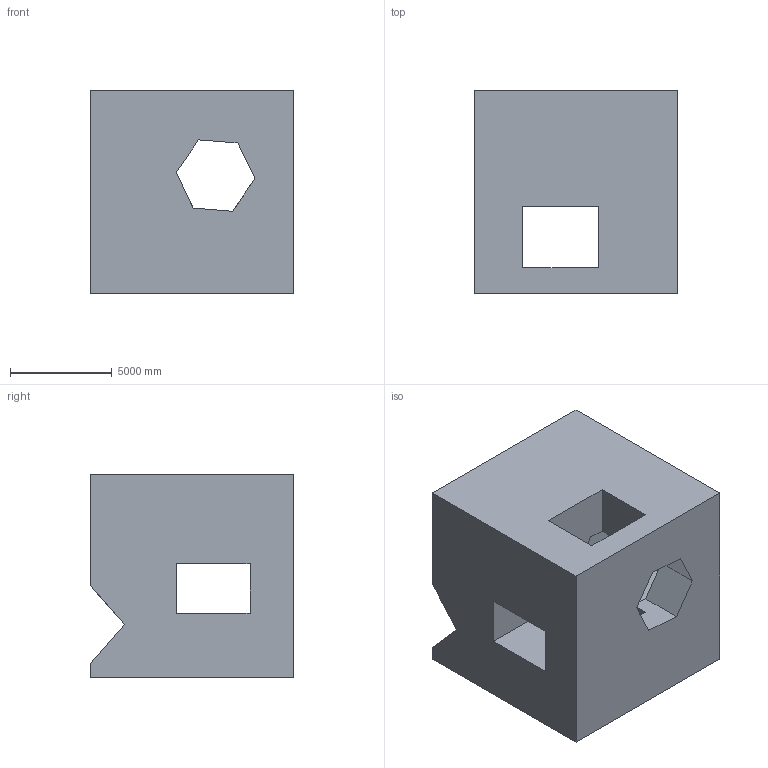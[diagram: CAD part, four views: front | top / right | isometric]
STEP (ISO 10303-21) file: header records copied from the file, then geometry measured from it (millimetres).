
FILE_DESCRIPTION (( 'STEP AP203' ), '1' );
FILE_NAME ('1351.STEP', '2022-08-18T13:59:38', ( 'user' ), ( '' ), 'SwSTEP 2.0', 'SolidWorks 2021', '' );
FILE_SCHEMA (( 'CONFIG_CONTROL_DESIGN' ));
Length unit declared in the file: centimetre
Products named in the file (1): 1351
Bounding box: 10000 x 10000 x 10000 mm (x, y, z)
Volume: 713811261670.5 mm3; surface area: 811949622.1 mm2
Topology: 1 solids, 1 shells, 30 faces, 99 edges, 66 vertices
Faces by surface type: plane 30
Entity records: 1160 total; most frequent: ORIENTED_EDGE 198, CARTESIAN_POINT 196, DIRECTION 161, LINE 99, VECTOR 99, EDGE_CURVE 99, VERTEX_POINT 66, EDGE_LOOP 35
